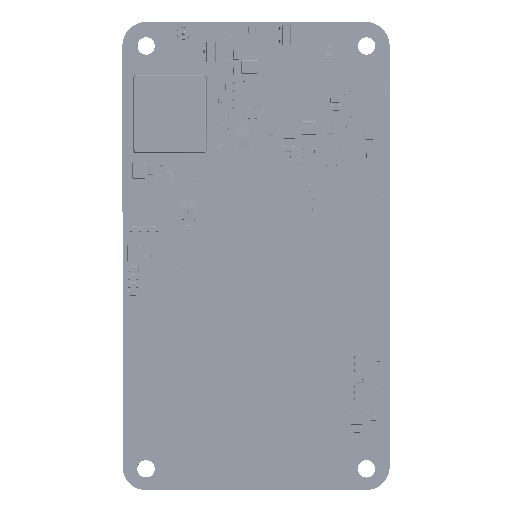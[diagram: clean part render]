
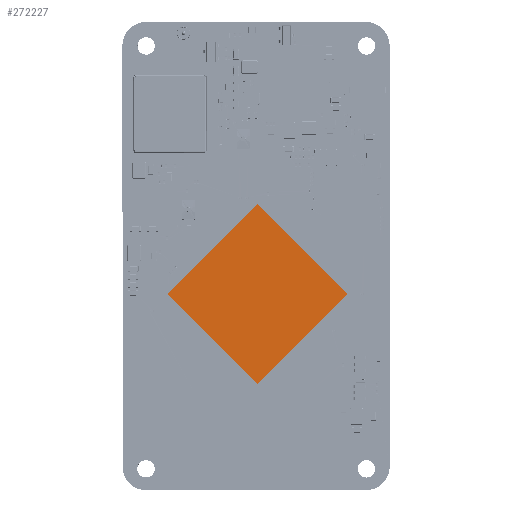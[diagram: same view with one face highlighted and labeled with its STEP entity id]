
A CAD part, top view. The second image highlights one B-rep face of the part: STEP entity #272227.
In plain terms, the highlighted planar face has unit normal (0, 0, 1).
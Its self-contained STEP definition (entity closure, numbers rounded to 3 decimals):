
#30804=DIRECTION('',(0.707,-0.707,0.));
#30805=VECTOR('',#30804,19.);
#30806=CARTESIAN_POINT('',(-13.435,0.,2.7));
#30807=LINE('',#30806,#30805);
#30808=DIRECTION('',(-0.707,-0.707,0.));
#30809=VECTOR('',#30808,19.);
#30810=CARTESIAN_POINT('',(0.,13.435,2.7));
#30811=LINE('',#30810,#30809);
#30812=DIRECTION('',(-0.707,0.707,0.));
#30813=VECTOR('',#30812,19.);
#30814=CARTESIAN_POINT('',(13.435,0.,2.7));
#30815=LINE('',#30814,#30813);
#30816=DIRECTION('',(0.707,0.707,0.));
#30817=VECTOR('',#30816,19.);
#30818=CARTESIAN_POINT('',(0.,-13.435,2.7));
#30819=LINE('',#30818,#30817);
#179725=CARTESIAN_POINT('',(-13.435,0.,2.7));
#179726=CARTESIAN_POINT('',(0.,-13.435,2.7));
#179727=VERTEX_POINT('',#179725);
#179728=VERTEX_POINT('',#179726);
#179729=CARTESIAN_POINT('',(13.435,0.,2.7));
#179730=VERTEX_POINT('',#179729);
#179731=CARTESIAN_POINT('',(0.,13.435,2.7));
#179732=VERTEX_POINT('',#179731);
#272216=CARTESIAN_POINT('',(0.,0.,2.7));
#272217=DIRECTION('',(0.,0.,1.));
#272218=DIRECTION('',(-0.707,0.707,0.));
#272219=AXIS2_PLACEMENT_3D('',#272216,#272217,#272218);
#272220=PLANE('',#272219);
#272221=ORIENTED_EDGE('',*,*,#272140,.F.);
#272222=ORIENTED_EDGE('',*,*,#272162,.F.);
#272223=ORIENTED_EDGE('',*,*,#272183,.F.);
#272224=ORIENTED_EDGE('',*,*,#272203,.F.);
#272225=EDGE_LOOP('',(#272221,#272222,#272223,#272224));
#272226=FACE_OUTER_BOUND('',#272225,.F.);
#272227=ADVANCED_FACE('',(#272226),#272220,.T.);
#272140=EDGE_CURVE('',#179727,#179728,#30807,.T.);
#272162=EDGE_CURVE('',#179732,#179727,#30811,.T.);
#272183=EDGE_CURVE('',#179730,#179732,#30815,.T.);
#272203=EDGE_CURVE('',#179728,#179730,#30819,.T.);
